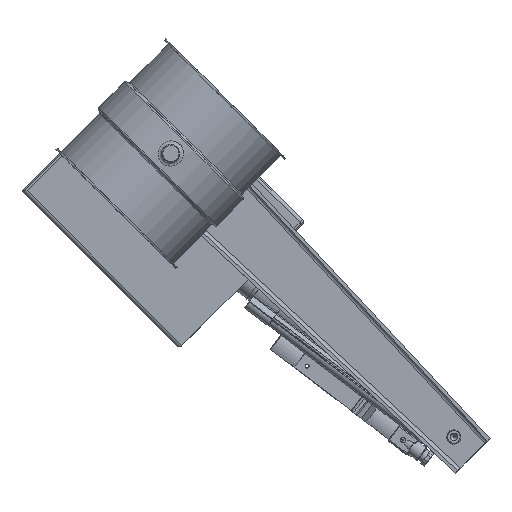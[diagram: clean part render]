
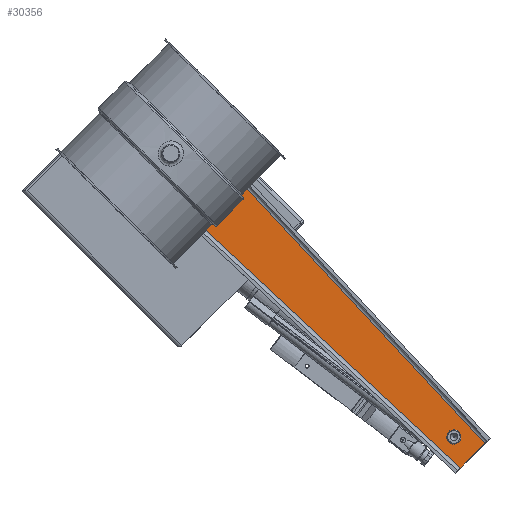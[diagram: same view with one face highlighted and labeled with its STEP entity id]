
A CAD part, top view. The second image highlights one B-rep face of the part: STEP entity #30356.
In plain terms, the highlighted planar face has unit normal (0, 0, 1).
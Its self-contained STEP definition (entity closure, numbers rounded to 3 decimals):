
#29680=CARTESIAN_POINT('',(-24.,-27.502,4.0));
#29681=VERTEX_POINT('',#29680);
#29682=CARTESIAN_POINT('',(-30.,-27.502,4.0));
#29683=DIRECTION('',(0.0,0.0,-1.0));
#29684=DIRECTION('',(-1.0,0.0,0.0));
#29685=AXIS2_PLACEMENT_3D('',#29682,#29683,#29684);
#29686=CIRCLE('',#29685,6.);
#29687=EDGE_CURVE('',#29681,#29681,#29686,.T.);
#29985=CARTESIAN_POINT('',(-421.542,-55.0,4.0));
#29986=VERTEX_POINT('',#29985);
#29987=CARTESIAN_POINT('',(-424.0,-55.0,4.0));
#29988=DIRECTION('',(0.0,0.0,-1.0));
#29989=DIRECTION('',(1.0,0.0,0.0));
#29990=AXIS2_PLACEMENT_3D('',#29987,#29988,#29989);
#29991=CIRCLE('',#29990,2.459);
#29992=EDGE_CURVE('',#29986,#29986,#29991,.T.);
#30026=CARTESIAN_POINT('',(-421.542,0.0,4.0));
#30027=VERTEX_POINT('',#30026);
#30028=CARTESIAN_POINT('',(-424.0,0.0,4.0));
#30029=DIRECTION('',(0.0,0.0,-1.0));
#30030=DIRECTION('',(1.0,0.0,0.0));
#30031=AXIS2_PLACEMENT_3D('',#30028,#30029,#30030);
#30032=CIRCLE('',#30031,2.459);
#30033=EDGE_CURVE('',#30027,#30027,#30032,.T.);
#30049=CARTESIAN_POINT('',(-472.0,-27.5,4.0));
#30050=VERTEX_POINT('',#30049);
#30051=CARTESIAN_POINT('',(-480.0,-27.5,4.0));
#30052=DIRECTION('',(0.0,0.0,-1.0));
#30053=DIRECTION('',(-1.0,0.0,0.0));
#30054=AXIS2_PLACEMENT_3D('',#30051,#30052,#30053);
#30055=CIRCLE('',#30054,8.0);
#30056=EDGE_CURVE('',#30050,#30050,#30055,.T.);
#30087=CARTESIAN_POINT('',(-459.322,-9.822,4.0));
#30088=VERTEX_POINT('',#30087);
#30089=CARTESIAN_POINT('',(-462.322,-9.822,4.0));
#30090=DIRECTION('',(0.0,0.0,-1.0));
#30091=DIRECTION('',(1.0,0.0,0.0));
#30092=AXIS2_PLACEMENT_3D('',#30089,#30090,#30091);
#30093=CIRCLE('',#30092,3.);
#30094=EDGE_CURVE('',#30088,#30088,#30093,.T.);
#30128=CARTESIAN_POINT('',(-459.322,-45.178,4.0));
#30129=VERTEX_POINT('',#30128);
#30130=CARTESIAN_POINT('',(-462.322,-45.178,4.0));
#30131=DIRECTION('',(0.0,0.0,-1.0));
#30132=DIRECTION('',(1.0,0.0,0.0));
#30133=AXIS2_PLACEMENT_3D('',#30130,#30131,#30132);
#30134=CIRCLE('',#30133,3.);
#30135=EDGE_CURVE('',#30129,#30129,#30134,.T.);
#30169=CARTESIAN_POINT('',(-494.678,-45.178,4.0));
#30170=VERTEX_POINT('',#30169);
#30171=CARTESIAN_POINT('',(-497.678,-45.178,4.0));
#30172=DIRECTION('',(0.0,0.0,-1.0));
#30173=DIRECTION('',(1.0,0.0,0.0));
#30174=AXIS2_PLACEMENT_3D('',#30171,#30172,#30173);
#30175=CIRCLE('',#30174,3.);
#30176=EDGE_CURVE('',#30170,#30170,#30175,.T.);
#30210=CARTESIAN_POINT('',(-494.678,-9.822,4.0));
#30211=VERTEX_POINT('',#30210);
#30212=CARTESIAN_POINT('',(-497.678,-9.822,4.0));
#30213=DIRECTION('',(0.0,0.0,-1.0));
#30214=DIRECTION('',(1.0,0.0,0.0));
#30215=AXIS2_PLACEMENT_3D('',#30212,#30213,#30214);
#30216=CIRCLE('',#30215,3.);
#30217=EDGE_CURVE('',#30211,#30211,#30216,.T.);
#30232=CARTESIAN_POINT('',(-480.,8.498,4.0));
#30233=VERTEX_POINT('',#30232);
#30241=CARTESIAN_POINT('',(0.,-8.002,4.0));
#30242=VERTEX_POINT('',#30241);
#30243=CARTESIAN_POINT('',(-480.,8.498,4.0));
#30244=DIRECTION('',(0.999,-0.034,0.0));
#30245=VECTOR('',#30244,480.284);
#30246=LINE('',#30243,#30245);
#30247=EDGE_CURVE('',#30233,#30242,#30246,.T.);
#30267=CARTESIAN_POINT('',(-258.938,-27.5,4.0));
#30268=DIRECTION('',(0.0,0.0,1.0));
#30269=DIRECTION('',(1.0,0.0,0.0));
#30270=AXIS2_PLACEMENT_3D('',#30267,#30268,#30269);
#30271=PLANE('',#30270);
#30272=ORIENTED_EDGE('',*,*,#30247,.F.);
#30273=CARTESIAN_POINT('',(-480.0,16.318,4.0));
#30274=VERTEX_POINT('',#30273);
#30275=CARTESIAN_POINT('',(-480.0,16.318,4.0));
#30276=DIRECTION('',(0.0,-1.0,0.0));
#30277=VECTOR('',#30276,7.82);
#30278=LINE('',#30275,#30277);
#30279=EDGE_CURVE('',#30274,#30233,#30278,.T.);
#30280=ORIENTED_EDGE('',*,*,#30279,.F.);
#30281=CARTESIAN_POINT('',(-483.636,12.334,4.0));
#30282=VERTEX_POINT('',#30281);
#30283=CARTESIAN_POINT('',(-484.0,16.318,4.0));
#30284=DIRECTION('',(0.0,0.0,1.0));
#30285=DIRECTION('',(0.739,-0.674,0.0));
#30286=AXIS2_PLACEMENT_3D('',#30283,#30284,#30285);
#30287=CIRCLE('',#30286,4.0);
#30288=EDGE_CURVE('',#30274,#30282,#30287,.F.);
#30289=ORIENTED_EDGE('',*,*,#30288,.T.);
#30290=CARTESIAN_POINT('',(-483.636,-67.334,4.0));
#30291=VERTEX_POINT('',#30290);
#30292=CARTESIAN_POINT('',(-480.0,-27.5,4.0));
#30293=DIRECTION('',(0.0,0.0,-1.0));
#30294=DIRECTION('',(0.0,-1.0,0.0));
#30295=AXIS2_PLACEMENT_3D('',#30292,#30293,#30294);
#30296=CIRCLE('',#30295,40.0);
#30297=EDGE_CURVE('',#30291,#30282,#30296,.T.);
#30298=ORIENTED_EDGE('',*,*,#30297,.F.);
#30299=CARTESIAN_POINT('',(-480.0,-71.318,4.0));
#30300=VERTEX_POINT('',#30299);
#30301=CARTESIAN_POINT('',(-484.0,-71.318,4.0));
#30302=DIRECTION('',(0.0,0.0,1.0));
#30303=DIRECTION('',(0.739,0.674,0.0));
#30304=AXIS2_PLACEMENT_3D('',#30301,#30302,#30303);
#30305=CIRCLE('',#30304,4.0);
#30306=EDGE_CURVE('',#30300,#30291,#30305,.T.);
#30307=ORIENTED_EDGE('',*,*,#30306,.F.);
#30308=CARTESIAN_POINT('',(-480.0,-63.498,4.0));
#30309=VERTEX_POINT('',#30308);
#30310=CARTESIAN_POINT('',(-480.0,-63.498,4.0));
#30311=DIRECTION('',(0.0,-1.0,0.0));
#30312=VECTOR('',#30311,7.82);
#30313=LINE('',#30310,#30312);
#30314=EDGE_CURVE('',#30309,#30300,#30313,.T.);
#30315=ORIENTED_EDGE('',*,*,#30314,.F.);
#30316=CARTESIAN_POINT('',(0.,-46.998,4.0));
#30317=VERTEX_POINT('',#30316);
#30318=CARTESIAN_POINT('',(0.,-46.998,4.0));
#30319=DIRECTION('',(-0.999,-0.034,0.0));
#30320=VECTOR('',#30319,480.284);
#30321=LINE('',#30318,#30320);
#30322=EDGE_CURVE('',#30317,#30309,#30321,.T.);
#30323=ORIENTED_EDGE('',*,*,#30322,.F.);
#30324=CARTESIAN_POINT('',(0.,-8.002,4.0));
#30325=DIRECTION('',(0.0,-1.0,0.0));
#30326=VECTOR('',#30325,38.995);
#30327=LINE('',#30324,#30326);
#30328=EDGE_CURVE('',#30242,#30317,#30327,.T.);
#30329=ORIENTED_EDGE('',*,*,#30328,.F.);
#30330=EDGE_LOOP('',(#30272,#30280,#30289,#30298,#30307,#30315,#30323,#30329));
#30331=FACE_OUTER_BOUND('',#30330,.T.);
#30332=ORIENTED_EDGE('',*,*,#29687,.T.);
#30333=EDGE_LOOP('',(#30332));
#30334=FACE_BOUND('',#30333,.T.);
#30335=ORIENTED_EDGE('',*,*,#29992,.T.);
#30336=EDGE_LOOP('',(#30335));
#30337=FACE_BOUND('',#30336,.T.);
#30338=ORIENTED_EDGE('',*,*,#30033,.T.);
#30339=EDGE_LOOP('',(#30338));
#30340=FACE_BOUND('',#30339,.T.);
#30341=ORIENTED_EDGE('',*,*,#30056,.T.);
#30342=EDGE_LOOP('',(#30341));
#30343=FACE_BOUND('',#30342,.T.);
#30344=ORIENTED_EDGE('',*,*,#30094,.T.);
#30345=EDGE_LOOP('',(#30344));
#30346=FACE_BOUND('',#30345,.T.);
#30347=ORIENTED_EDGE('',*,*,#30135,.T.);
#30348=EDGE_LOOP('',(#30347));
#30349=FACE_BOUND('',#30348,.T.);
#30350=ORIENTED_EDGE('',*,*,#30176,.T.);
#30351=EDGE_LOOP('',(#30350));
#30352=FACE_BOUND('',#30351,.T.);
#30353=ORIENTED_EDGE('',*,*,#30217,.T.);
#30354=EDGE_LOOP('',(#30353));
#30355=FACE_BOUND('',#30354,.T.);
#30356=ADVANCED_FACE('',(#30331,#30334,#30337,#30340,#30343,#30346,#30349,#30352,#30355),#30271,.T.);
